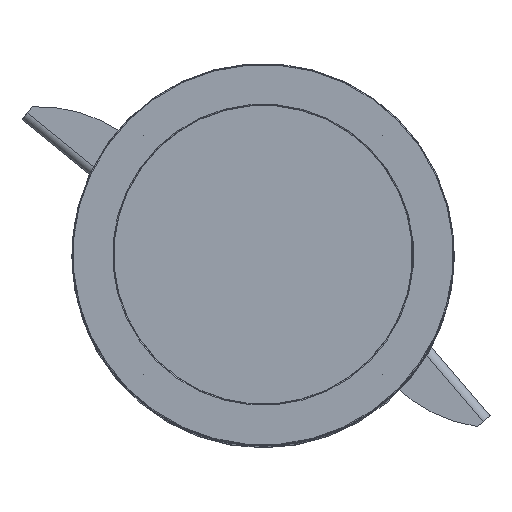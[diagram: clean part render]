
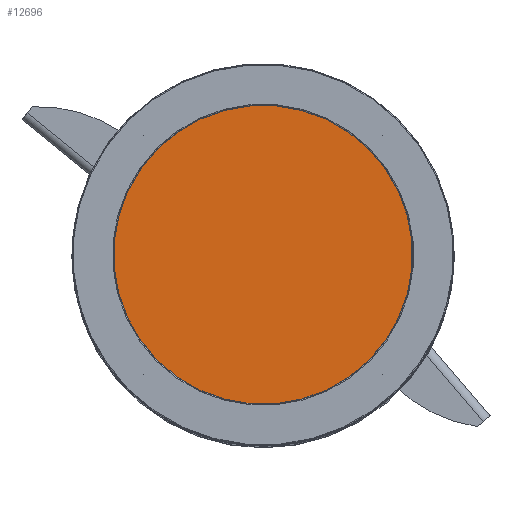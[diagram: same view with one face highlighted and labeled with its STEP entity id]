
A CAD part, top view. The second image highlights one B-rep face of the part: STEP entity #12696.
In plain terms, the highlighted planar face has unit normal (0, 0, 1).
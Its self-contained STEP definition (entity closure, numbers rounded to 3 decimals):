
#4613=ORIENTED_EDGE('',*,*,#6984,.T.);
#6984=EDGE_CURVE('',#8345,#8345,#9251,.F.);
#8345=VERTEX_POINT('',#24241);
#9251=CIRCLE('',#13951,53.2);
#10121=EDGE_LOOP('',(#4613));
#11194=FACE_BOUND('',#10121,.T.);
#11812=PLANE('',#13950);
#12696=ADVANCED_FACE('',(#11194),#11812,.F.);
#13950=AXIS2_PLACEMENT_3D('',#24239,#16615,#16616);
#13951=AXIS2_PLACEMENT_3D('',#24240,#16617,#16618);
#16615=DIRECTION('',(0.,0.,-1.));
#16616=DIRECTION('',(-1.,0.,0.));
#16617=DIRECTION('',(0.,0.,-1.));
#16618=DIRECTION('',(-1.,0.,0.));
#24239=CARTESIAN_POINT('',(0.,0.,3.));
#24240=CARTESIAN_POINT('',(0.,0.,3.));
#24241=CARTESIAN_POINT('',(-53.2,0.,3.));
